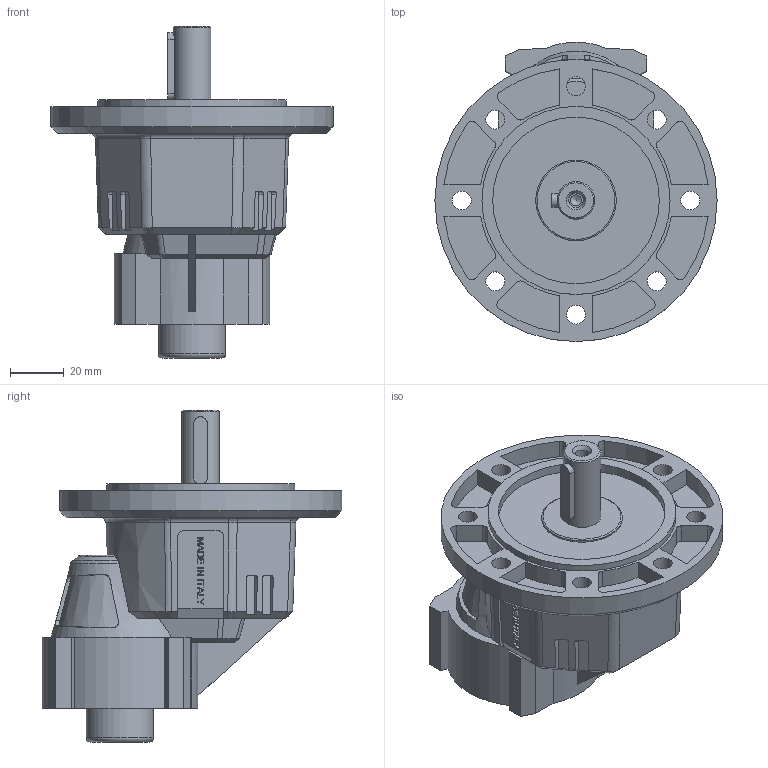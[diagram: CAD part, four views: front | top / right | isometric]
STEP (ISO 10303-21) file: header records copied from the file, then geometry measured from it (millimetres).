
FILE_DESCRIPTION( ( 'Unknown' ), '1' );
FILE_NAME( 'E:/services/configuratordownloads/customers/hydromec/monostadio/download/EA9F5955578D6C7C6133C94434BF5FD/STEP/EA9F5955578D6C7C6133C94434BF5FD.3d.stp', 'Unknown', ( 'Unknown' ), ( 'Unknown' ), 'PSStep 10.1', 'Unknown', ' ' );
FILE_SCHEMA( ( 'AUTOMOTIVE_DESIGN { 1 0 10303 214 1 1 1 1 }' ) );
Length unit declared in the file: millimetre
Products named in the file (1): 2118800
Bounding box: 105 x 111.4 x 123.5 mm (x, y, z)
Volume: 335710.8 mm3; surface area: 50169.3 mm2
Topology: 1 solids, 1 shells, 468 faces, 1214 edges, 800 vertices
Faces by surface type: plane 319, cylinder 90, extrusion 20, bspline 19, cone 15, torus 5
Full cylindrical faces by diameter (mm): 4.134 x1, 4.917 x4, 5.3 x1, 7 x8, 14 x1, 25 x1, 30 x1, 47 x1, 62 x1, 70 x1, 105 x1
Entity records: 18991 total; most frequent: CARTESIAN_POINT 4045, ORIENTED_EDGE 2348, DIRECTION 2124, EDGE_CURVE 1174, VECTOR 872, LINE 852, VERTEX_POINT 788, AXIS2_PLACEMENT_3D 626
